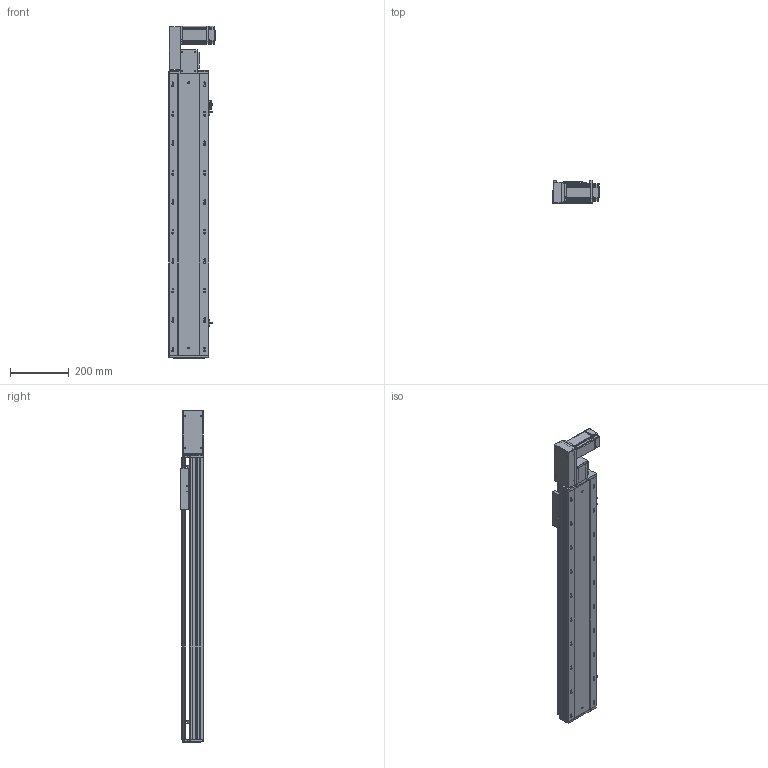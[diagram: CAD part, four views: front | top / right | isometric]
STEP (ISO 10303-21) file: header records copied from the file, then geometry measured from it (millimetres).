
FILE_DESCRIPTION (( 'STEP AP203' ), '1' );
FILE_NAME ('RY140-T-300-LK.SLDASM_700.step', '2021-03-01T06:35:08', ( '盈信电脑' ), ( '东莞市道滘镇水果街19号' ), 'SwSTEP 2.0', 'SolidWorks 2012', '' );
FILE_SCHEMA (( 'CONFIG_CONTROL_DESIGN' ));
Length unit declared in the file: millimetre
Products named in the file (18): RY140-T-300-LK.SLDASM_700; RY140-T翋肮謫裔啣; 滅袉蝶18-10; 侂狟400W侜督萇儂; RY140-T萇儂欶; RY120-T主同步轮轴承压盖; RY120-T蹟翐M4; RY140-T萇儂假蚾啣; RY140-T翋肮祭謫盓傅釱; 15; RY120-T肮祭湍揤踡輸1; 覜茼ん672; RY120-T肮祭湍揤踡輸2; RY120外置感应片(140共用）; RY140-T-300-DL倰第奻裔啣_700; RY140綴裔啣; RY140-T-300-DL倰第菁釱_700; RY140肮祭謫臏賑輸
Assembly tree (23 placements, depth 3):
  RY140-T-300-LK.SLDASM_700
    RY140-T-300-DL倰第菁釱_700
    RY140肮祭謫臏賑輸
    RY140-T-300-DL倰第奻裔啣_700
    RY140綴裔啣
    覜茼ん672  x3
    RY120外置感应片(140共用）
    RY120-T肮祭湍揤踡輸2
    RY120-T肮祭湍揤踡輸1
    RY140-T翋肮祭謫盓傅釱
    RY140-T萇儂假蚾啣
    侂狟400W侜督萇儂
      15
    RY120-T主同步轮轴承压盖
    RY120-T蹟翐M4  x4
    RY140-T萇儂欶
    滅袉蝶18-10  x2
    RY140-T翋肮謫裔啣
Bounding box: 157 x 78 x 1126.5 mm (x, y, z)
Volume: 3273385.4 mm3; surface area: 1232061.1 mm2
Topology: 22 solids, 22 shells, 2675 faces, 7369 edges, 4746 vertices
Faces by surface type: plane 1385, cylinder 992, cone 198, bspline 100
Entity records: 85317 total; most frequent: CARTESIAN_POINT 21009, ORIENTED_EDGE 13266, DIRECTION 12513, EDGE_CURVE 6633, VERTEX_POINT 4345, LINE 4217, VECTOR 4217, AXIS2_PLACEMENT_3D 4148
